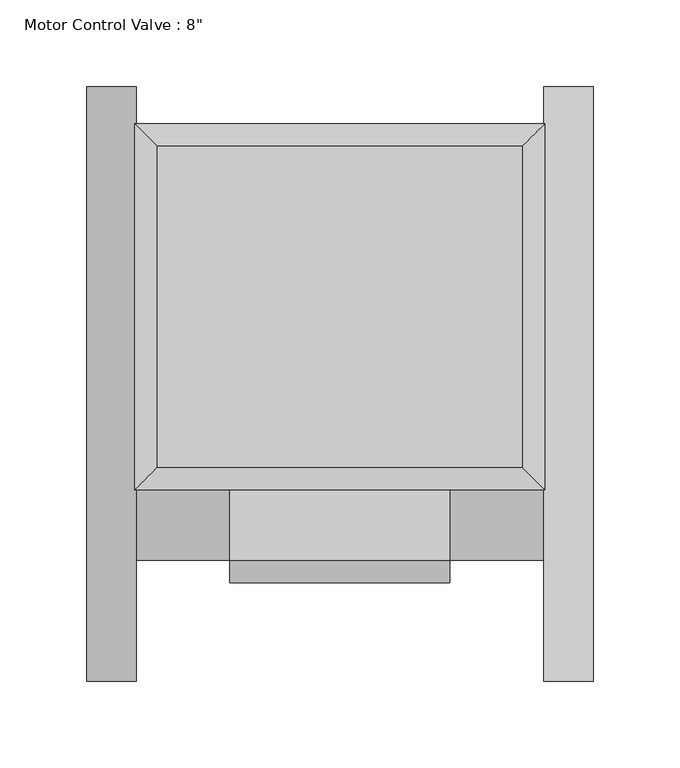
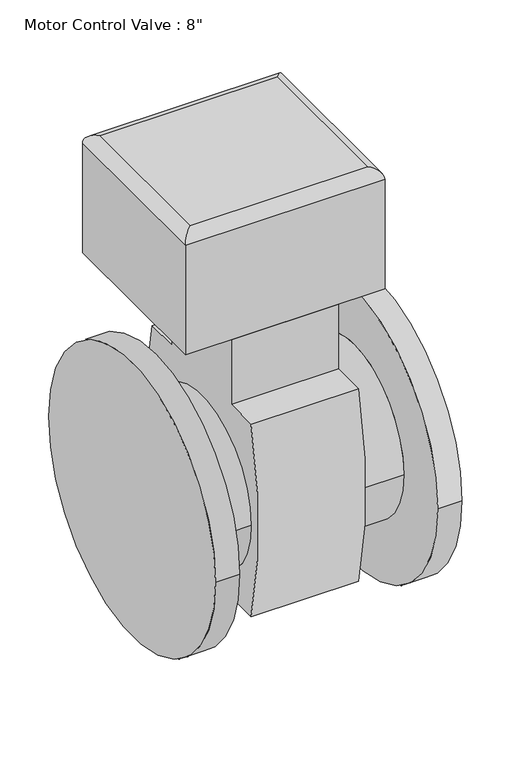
"""IFC4 building model written with IfcOpenShell, lengths in millimetres: valve geometry."""

from ifc_helpers import new_model, si_unit, frame, origin, place, context, project, spatial, circle_curve, ellipse_curve, source, transform, mapped, element, save
from ifc_brep_helpers import plane_surface, cylinder_surface, advanced_brep


def valve_8afa9b17(model_context):
    return source(origin(), model_context, "Body", "AdvancedBrep", [
        advanced_brep(
        [(118.26875, 150.01875, 345.4796875), (105.56875, 137.31875, 358.1796875), (105.56875, -48.41875, 358.1796875), (118.26875, -61.11875, 345.4796875), (-105.56875, -48.41875, 358.1796875), (-118.26875, -61.11875, 345.4796875), (-105.56875, 137.31875, 358.1796875), (-118.26875, 150.01875, 345.4796875), (118.26875, -61.11875, 208.1609375), (-118.26875, -61.11875, 208.1609375), (118.26875, 150.01875, 208.1609375), (-118.26875, 150.01875, 208.1609375)],
        [
            (0, 1, ellipse_curve(frame((105.56875, 137.31875, 345.4796875), z_axis=(0.7071067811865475, -0.7071067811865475, 0.0), x_axis=(0.7071067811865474, 0.7071067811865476, 0.0)), 17.9605122, 12.7)),
            (1, 2),
            (2, 3, ellipse_curve(frame((105.56875, -48.41875, 345.4796875), z_axis=(0.7071067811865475, 0.7071067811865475, 0.0), x_axis=(-0.7071067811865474, 0.7071067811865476, 0.0)), 17.9605122, 12.7)),
            (3, 0),
            (2, 4),
            (4, 5, ellipse_curve(frame((-105.56875, -48.41875, 345.4796875), z_axis=(0.7071067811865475, -0.7071067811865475, 0.0), x_axis=(0.7071067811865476, 0.7071067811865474, 0.0)), 17.9605122, 12.7)),
            (5, 3),
            (4, 6),
            (6, 7, ellipse_curve(frame((-105.56875, 137.31875, 345.4796875), z_axis=(-0.7071067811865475, -0.7071067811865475, 0.0), x_axis=(0.7071067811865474, -0.7071067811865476, 0.0)), 17.9605122, 12.7)),
            (7, 5),
            (0, 7),
            (6, 1),
            (8, 3),
            (5, 9),
            (9, 8),
            (10, 11),
            (11, 7),
            (0, 10),
            (8, 10),
            (11, 9),
        ],
        [
            cylinder_surface(frame((105.56875, 150.01875, 345.4796875), z_axis=(0.0, 1.0, 0.0), x_axis=(1.0, 0.0, 0.0)), 12.7),
            cylinder_surface(frame((118.26875, -48.41875, 345.4796875), z_axis=(1.0, 0.0, 0.0), x_axis=(0.0, -1.0, 0.0)), 12.7),
            cylinder_surface(frame((-105.56875, -61.11875, 345.4796875), z_axis=(0.0, -1.0, 0.0), x_axis=(-1.0, 0.0, 0.0)), 12.7),
            cylinder_surface(frame((-118.26875, 137.31875, 345.4796875), z_axis=(-1.0, 0.0, 0.0), x_axis=(0.0, 1.0, 0.0)), 12.7),
            plane_surface(frame((118.26875, -61.11875, 208.1609375), z_axis=(0.0, -1.0, 0.0), x_axis=(0.0, 0.0, 1.0))),
            plane_surface(frame((118.26875, 150.01875, 208.1609375), z_axis=(0.0, 1.0, 0.0), x_axis=(0.0, 0.0, -1.0))),
            plane_surface(frame((118.26875, -61.11875, 208.1609375), z_axis=(1.0, 0.0, 0.0), x_axis=(0.0, 1.0, 0.0))),
            plane_surface(frame((-118.26875, -61.11875, 345.4796875), z_axis=(-1.0, 0.0, 0.0), x_axis=(0.0, 1.0, 0.0))),
            plane_surface(frame((-118.26875, -61.11875, 208.1609375), z_axis=(0.0, 0.0, -1.0), x_axis=(0.0, 1.0, 0.0))),
            plane_surface(frame((105.56875, -48.41875, 358.1796875), z_axis=(0.0, 0.0, 1.0), x_axis=(0.0, 1.0, 0.0))),
        ],
        [
            (0, [[1, 2, 3, 4]]),
            (1, [[-3, 5, 6, 7]]),
            (2, [[-6, 8, 9, 10]]),
            (3, [[-1, 11, -9, 12]]),
            (4, [[13, -7, 14, 15]]),
            (5, [[16, 17, -11, 18]]),
            (6, [[-13, 19, -18, -4]]),
            (7, [[-14, -10, -17, 20]]),
            (8, [[-15, -20, -16, -19]]),
            (9, [[-2, -12, -8, -5]]),
        ],
    ),
        advanced_brep(
        [(-146.05, -171.45, 0.0), (-146.05, 171.45, 0.0), (-117.475, -171.45, 0.0), (-117.475, 171.45, 0.0), (-117.475, -101.6, 0.0), (-117.475, 101.6, 0.0), (-63.5, -101.6, 0.0), (-63.5, 101.6, 0.0), (63.5, -101.6, 127.0), (63.5, -101.6, -114.3), (63.5, 103.4849501, -114.3), (63.5, 101.6, 127.0), (63.5, 61.11875, 127.0), (63.5, 61.11875, 208.1609375), (63.5, -61.11875, 208.1609375), (63.5, -61.11875, 127.0), (63.5, -101.6, 0.0), (63.5, 101.6, 0.0), (-63.5, 101.6, 127.0), (-63.5, 103.4849501, -114.3), (-63.5, -101.6, -114.3), (-63.5, -101.6, 127.0), (-63.5, -61.11875, 127.0), (-63.5, -61.11875, 208.1609375), (-63.5, 61.11875, 208.1609375), (-63.5, 61.11875, 127.0), (117.475, 101.6, 0.0), (117.475, -101.6, 0.0), (146.05, 171.45, 0.0), (146.05, -171.45, 0.0), (117.475, 171.45, 0.0), (117.475, -171.45, 0.0)],
        [
            (0, 1, circle_curve(frame((-146.05, 0.0, 0.0), z_axis=(-1.0, 0.0, 0.0), x_axis=(0.0, 1.0, 0.0)), 171.45)),
            (1, 0, circle_curve(frame((-146.05, 0.0, 0.0), z_axis=(-1.0, 0.0, 0.0), x_axis=(0.0, 1.0, 0.0)), 171.45)),
            (2, 3, circle_curve(frame((-117.475, 0.0, 0.0), z_axis=(1.0, 0.0, 0.0), x_axis=(0.0, 1.0, 0.0)), 171.45)),
            (3, 2, circle_curve(frame((-117.475, 0.0, 0.0), z_axis=(1.0, 0.0, 0.0), x_axis=(0.0, 1.0, 0.0)), 171.45)),
            (4, 5, circle_curve(frame((-117.475, 0.0, 0.0), z_axis=(-1.0, 0.0, 0.0), x_axis=(0.0, 1.0, 0.0)), 101.6)),
            (5, 4, circle_curve(frame((-117.475, 0.0, 0.0), z_axis=(-1.0, 0.0, 0.0), x_axis=(0.0, 1.0, 0.0)), 101.6)),
            (0, 2),
            (3, 1),
            (4, 6),
            (6, 7, circle_curve(frame((-63.5, 0.0, 0.0), z_axis=(-1.0, 0.0, 0.0), x_axis=(0.0, 1.0, 0.0)), 101.6)),
            (7, 5),
            (7, 6, circle_curve(frame((-63.5, 0.0, 0.0), z_axis=(-1.0, 0.0, 0.0), x_axis=(0.0, 1.0, 0.0)), 101.6)),
            (8, 9, circle_curve(frame((63.5, 386.4610039, 6.35), z_axis=(1.0, 0.0, 0.0), x_axis=(0.0, 1.0, 0.0)), 502.7523904)),
            (9, 10),
            (10, 11, circle_curve(frame((63.5, -386.4610039, 2.5300781), z_axis=(1.0, 0.0, 0.0), x_axis=(0.0, 1.0, 0.0)), 503.6827424)),
            (11, 12),
            (12, 13),
            (13, 14),
            (14, 15),
            (15, 8),
            (16, 17, circle_curve(frame((63.5, 0.0, 0.0), z_axis=(-1.0, 0.0, 0.0), x_axis=(0.0, -1.0, 0.0)), 101.6)),
            (17, 16, circle_curve(frame((63.5, 0.0, 0.0), z_axis=(-1.0, 0.0, 0.0), x_axis=(0.0, -1.0, 0.0)), 101.6)),
            (18, 19, circle_curve(frame((-63.5, -386.4610039, 2.5300781), z_axis=(-1.0, 0.0, 0.0), x_axis=(0.0, 1.0, 0.0)), 503.6827424)),
            (19, 20),
            (20, 21, circle_curve(frame((-63.5, 386.4610039, 6.35), z_axis=(-1.0, 0.0, 0.0), x_axis=(0.0, 1.0, 0.0)), 502.7523904)),
            (21, 22),
            (22, 23),
            (23, 24),
            (24, 25),
            (25, 18),
            (11, 18),
            (25, 12),
            (21, 8),
            (15, 22),
            (20, 9),
            (19, 10),
            (26, 17),
            (16, 27),
            (27, 26, circle_curve(frame((117.475, 0.0, 0.0), z_axis=(-1.0, 0.0, 0.0), x_axis=(0.0, -1.0, 0.0)), 101.6)),
            (26, 27, circle_curve(frame((117.475, 0.0, 0.0), z_axis=(-1.0, 0.0, 0.0), x_axis=(0.0, -1.0, 0.0)), 101.6)),
            (28, 29, circle_curve(frame((146.05, 0.0, 0.0), z_axis=(1.0, 0.0, 0.0), x_axis=(0.0, -1.0, 0.0)), 171.45)),
            (29, 28, circle_curve(frame((146.05, 0.0, 0.0), z_axis=(1.0, 0.0, 0.0), x_axis=(0.0, -1.0, 0.0)), 171.45)),
            (30, 31, circle_curve(frame((117.475, 0.0, 0.0), z_axis=(-1.0, 0.0, 0.0), x_axis=(0.0, -1.0, 0.0)), 171.45)),
            (31, 30, circle_curve(frame((117.475, 0.0, 0.0), z_axis=(-1.0, 0.0, 0.0), x_axis=(0.0, -1.0, 0.0)), 171.45)),
            (28, 30),
            (31, 29),
            (24, 13),
            (23, 14),
        ],
        [
            plane_surface(frame((-146.05, 0.0, 0.0), z_axis=(-1.0, 0.0, 0.0), x_axis=(0.0, 0.0, 1.0))),
            plane_surface(frame((-117.475, 0.0, 0.0), z_axis=(1.0, 0.0, 0.0), x_axis=(0.0, 0.0, 1.0))),
            cylinder_surface(frame((-146.05, 0.0, 0.0), z_axis=(-1.0, 0.0, 0.0), x_axis=(0.0, 1.0, 0.0)), 171.45),
            cylinder_surface(frame((-117.475, 0.0, 0.0), z_axis=(-1.0, 0.0, 0.0), x_axis=(0.0, 1.0, 0.0)), 101.6),
            plane_surface(frame((63.5, -101.6, 127.0), z_axis=(1.0, 0.0, 0.0), x_axis=(0.0, -1.0, 0.0))),
            plane_surface(frame((-63.5, -101.6, 127.0), z_axis=(-1.0, 0.0, 0.0), x_axis=(0.0, 1.0, 0.0))),
            plane_surface(frame((63.5, 101.6, 127.0), z_axis=(0.0, 0.0, 1.0), x_axis=(-1.0, 0.0, 0.0))),
            cylinder_surface(frame((-63.5, 386.4610039, 6.35), z_axis=(1.0, 0.0, 0.0), x_axis=(0.0, 1.0, 0.0)), 502.7523904),
            plane_surface(frame((63.5, -101.6, -114.3), z_axis=(0.0, 0.0, -1.0), x_axis=(-1.0, 0.0, 0.0))),
            cylinder_surface(frame((-63.5, -386.4610039, 2.5300781), z_axis=(1.0, 0.0, 0.0), x_axis=(0.0, 1.0, 0.0)), 503.6827424),
            cylinder_surface(frame((117.475, 0.0, 0.0), z_axis=(1.0, 0.0, 0.0), x_axis=(0.0, -1.0, 0.0)), 101.6),
            plane_surface(frame((146.05, 0.0, 0.0), z_axis=(1.0, 0.0, 0.0), x_axis=(0.0, 0.0, 1.0))),
            plane_surface(frame((117.475, 0.0, 0.0), z_axis=(-1.0, 0.0, 0.0), x_axis=(0.0, 0.0, 1.0))),
            cylinder_surface(frame((146.05, 0.0, 0.0), z_axis=(1.0, 0.0, 0.0), x_axis=(0.0, -1.0, 0.0)), 171.45),
            plane_surface(frame((63.5, 61.11875, 127.0), z_axis=(0.0, 1.0, 0.0), x_axis=(-1.0, 0.0, 0.0))),
            plane_surface(frame((63.5, 61.11875, 208.1609375), z_axis=(0.0, 0.0, 1.0), x_axis=(-1.0, 0.0, 0.0))),
            plane_surface(frame((63.5, -61.11875, 208.1609375), z_axis=(0.0, -1.0, 0.0), x_axis=(-1.0, 0.0, 0.0))),
        ],
        [
            (0, [[1, 2]]),
            (1, [[3, 4], [5, 6]]),
            (2, [[-1, 7, -4, 8]]),
            (2, [[-2, -8, -3, -7]]),
            (3, [[9, 10, 11, -5]]),
            (3, [[-9, -6, -11, 12]]),
            (4, [[13, 14, 15, 16, 17, 18, 19, 20], [21, 22]]),
            (5, [[23, 24, 25, 26, 27, 28, 29, 30], [-10, -12]]),
            (6, [[31, -30, 32, -16]]),
            (6, [[33, -20, 34, -26]]),
            (7, [[-13, -33, -25, 35]]),
            (8, [[-14, -35, -24, 36]]),
            (9, [[-15, -36, -23, -31]]),
            (10, [[37, -21, 38, 39]]),
            (10, [[-37, 40, -38, -22]]),
            (11, [[41, 42]]),
            (12, [[43, 44], [-39, -40]]),
            (13, [[-41, 45, -44, 46]]),
            (13, [[-42, -46, -43, -45]]),
            (14, [[-17, -32, -29, 47]]),
            (15, [[-18, -47, -28, 48]]),
            (16, [[-19, -48, -27, -34]]),
        ],
    ),
    ])


if __name__ == "__main__":
    model = new_model("IFC4")
    model_context = context("Model", 3, world=origin())
    ifc_project = project(units=[si_unit("LENGTHUNIT", "METRE", prefix="MILLI")], contexts=[model_context])
    site = spatial("IfcSite", under=ifc_project)
    building = spatial("IfcBuilding", under=site)
    placement = place(None, origin())
    valve_shape = valve_8afa9b17(model_context)
    element("IfcValve", 1, ObjectType="Motor Control Valve : 8\"", at=placement, inside=building, context=model_context, shape_type="MappedRepresentation", body=[
        mapped(valve_shape, transform((0.0, 0.0, 0.0), x_axis=(1.0, 0.0, 0.0), y_axis=(0.0, 1.0, 0.0), z_axis=(0.0, 0.0, 1.0))),
    ])
    save(model, "model.ifc")
